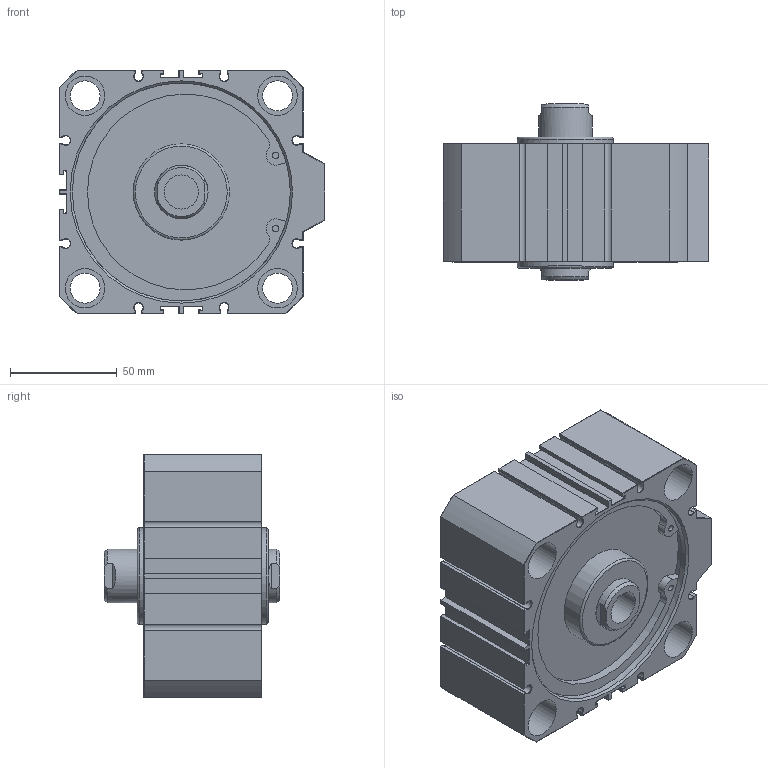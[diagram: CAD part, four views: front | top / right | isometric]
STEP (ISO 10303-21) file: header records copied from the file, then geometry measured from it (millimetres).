
FILE_DESCRIPTION(/* description */ (''),/* implementation_level */ '2;1');
FILE_NAME(/* name */ 'AJC-SW100X10N',/* time_stamp */ '2019-06-21T15:51:27+08:00',/* author */ ('JEFF HUANG'),/* organization */ ('TAIWAN AMAC CLAMP INDUSTRIAL CO., LTD.'),/* preprocessor_version */ 'ST-DEVELOPER v16.7',/* originating_system */ 'DEX',/* authorisation */ $);
FILE_SCHEMA (('AUTOMOTIVE_DESIGN {1 0 10303 214 3 1 1}'));
Length unit declared in the file: millimetre
Products named in the file (1): AJC-SW100X10N
Bounding box: 124 x 82.3 x 114 mm (x, y, z)
Volume: 580091.8 mm3; surface area: 80732 mm2
Topology: 1 solids, 1 shells, 377 faces, 857 edges, 472 vertices
Faces by surface type: plane 244, cylinder 67, cone 64, torus 2
Full cylindrical faces by diameter (mm): 3 x4, 14 x4, 15.806 x2, 16 x2, 18.5 x8, 25 x1, 45 x2, 102 x2
Entity records: 12467 total; most frequent: CARTESIAN_POINT 1706, DIRECTION 1698, ORIENTED_EDGE 1578, EDGE_CURVE 789, LINE 588, VECTOR 588, AXIS2_PLACEMENT_3D 555, VERTEX_POINT 467
